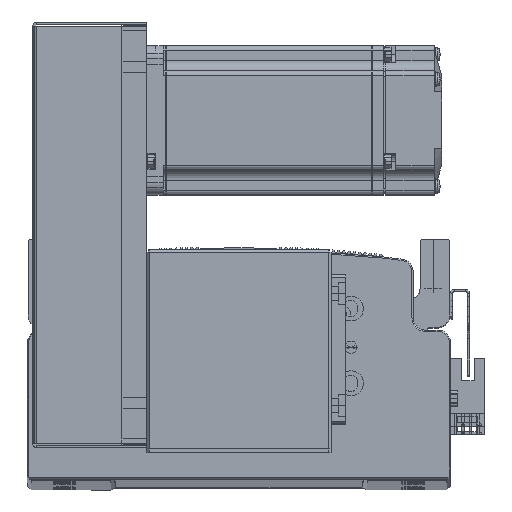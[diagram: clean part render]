
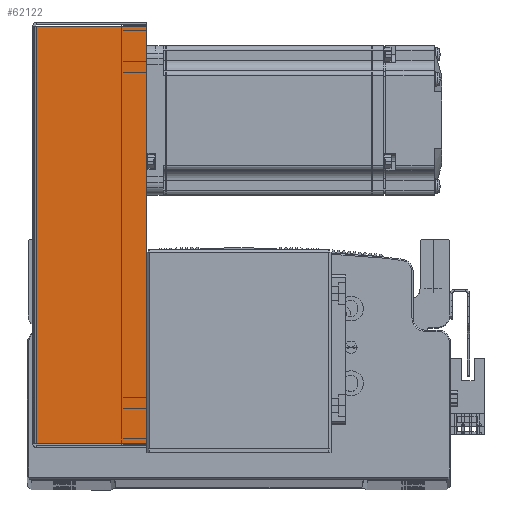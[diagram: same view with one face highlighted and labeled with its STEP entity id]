
A CAD part, top view. The second image highlights one B-rep face of the part: STEP entity #62122.
In plain terms, the highlighted planar face has unit normal (0, 0, 1) as drawn and (0, 0, -1) by its records, which use the part's own axes.
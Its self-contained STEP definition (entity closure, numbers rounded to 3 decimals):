
#3079 = EDGE_LOOP ( 'NONE', ( #51385, #51477, #51423, #51443 ) ) ;
#28261 = CARTESIAN_POINT ( 'NONE',  ( 84.5, 45., -40.5 ) ) ;
#28299 = CARTESIAN_POINT ( 'NONE',  ( 0., 0.737, -40.5 ) ) ;
#28327 = DIRECTION ( 'NONE',  ( 1., 0., 0. ) ) ;
#28331 = DIRECTION ( 'NONE',  ( 1., 0., 0. ) ) ;
#28434 = CARTESIAN_POINT ( 'NONE',  ( -83.793, 0., -40.5 ) ) ;
#28440 = DIRECTION ( 'NONE',  ( 0., 1., 0. ) ) ;
#28477 = CARTESIAN_POINT ( 'NONE',  ( 83.793, 0., -40.5 ) ) ;
#28478 = DIRECTION ( 'NONE',  ( 0., 1., 0. ) ) ;
#36481 = EDGE_CURVE ( 'NONE', #40063, #40004, #45922, .T. ) ;
#36484 = EDGE_CURVE ( 'NONE', #40055, #40066, #45960, .T. ) ;
#36645 = EDGE_CURVE ( 'NONE', #40063, #40055, #46102, .T. ) ;
#36694 = EDGE_CURVE ( 'NONE', #40004, #40066, #46114, .T. ) ;
#40004 = VERTEX_POINT ( 'NONE', #73541 ) ;
#40055 = VERTEX_POINT ( 'NONE', #73596 ) ;
#40063 = VERTEX_POINT ( 'NONE', #73609 ) ;
#40066 = VERTEX_POINT ( 'NONE', #73614 ) ;
#45922 = LINE ( 'NONE', #28299, #45935 ) ;
#45935 = VECTOR ( 'NONE', #28331, 1000. ) ;
#45960 = LINE ( 'NONE', #28261, #45974 ) ;
#45974 = VECTOR ( 'NONE', #28327, 1000. ) ;
#46102 = LINE ( 'NONE', #28434, #46103 ) ;
#46103 = VECTOR ( 'NONE', #28440, 1000. ) ;
#46114 = LINE ( 'NONE', #28477, #46136 ) ;
#46136 = VECTOR ( 'NONE', #28478, 1000. ) ;
#51385 = ORIENTED_EDGE ( 'NONE', *, *, #36481, .F. ) ;
#51423 = ORIENTED_EDGE ( 'NONE', *, *, #36484, .T. ) ;
#51443 = ORIENTED_EDGE ( 'NONE', *, *, #36694, .F. ) ;
#51477 = ORIENTED_EDGE ( 'NONE', *, *, #36645, .T. ) ;
#62122 = ADVANCED_FACE ( 'NONE', ( #82307 ), #86779, .F. ) ;
#73541 = CARTESIAN_POINT ( 'NONE',  ( 83.793, 0.737, -40.5 ) ) ;
#73596 = CARTESIAN_POINT ( 'NONE',  ( -83.793, 45., -40.5 ) ) ;
#73609 = CARTESIAN_POINT ( 'NONE',  ( -83.793, 0.737, -40.5 ) ) ;
#73614 = CARTESIAN_POINT ( 'NONE',  ( 83.793, 45., -40.5 ) ) ;
#82307 = FACE_OUTER_BOUND ( 'NONE', #3079, .T. ) ;
#84318 = AXIS2_PLACEMENT_3D ( 'NONE', #86752, #86774, #86753 ) ;
#86752 = CARTESIAN_POINT ( 'NONE',  ( 0., 0., -40.5 ) ) ;
#86753 = DIRECTION ( 'NONE',  ( 0., -1., 0. ) ) ;
#86774 = DIRECTION ( 'NONE',  ( 0., 0., 1. ) ) ;
#86779 = PLANE ( 'NONE',  #84318 ) ;
